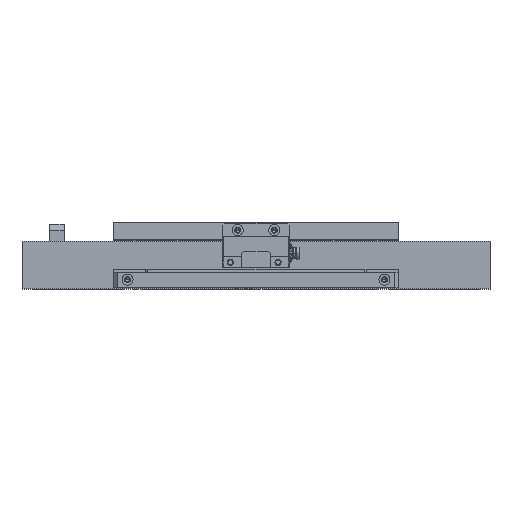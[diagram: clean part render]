
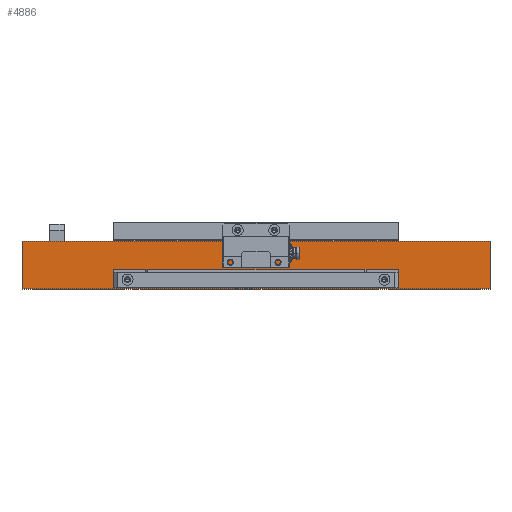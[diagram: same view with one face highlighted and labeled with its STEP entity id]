
A CAD part, top view. The second image highlights one B-rep face of the part: STEP entity #4886.
In plain terms, the highlighted planar face has unit normal (0, 0, 1).
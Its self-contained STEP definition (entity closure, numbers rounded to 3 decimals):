
#209 = DIRECTION ( 'NONE',  ( 0., 0., 1. ) ) ;
#1037 = EDGE_CURVE ( 'NONE', #8412, #20506, #8835, .T. ) ;
#1198 = CARTESIAN_POINT ( 'NONE',  ( -127.5, 26., 42.5 ) ) ;
#1228 = DIRECTION ( 'NONE',  ( 0., 0., 1. ) ) ;
#1430 = FACE_BOUND ( 'NONE', #4719, .T. ) ;
#1613 = AXIS2_PLACEMENT_3D ( 'NONE', #15515, #23757, #23883 ) ;
#1782 = VERTEX_POINT ( 'NONE', #23259 ) ;
#2299 = LINE ( 'NONE', #2420, #9876 ) ;
#2420 = CARTESIAN_POINT ( 'NONE',  ( -127.5, 26., 42.5 ) ) ;
#2478 = EDGE_CURVE ( 'NONE', #15671, #13914, #24063, .T. ) ;
#2589 = DIRECTION ( 'NONE',  ( 0., -1., 0. ) ) ;
#2671 = CARTESIAN_POINT ( 'NONE',  ( -127.5, 26., 42.5 ) ) ;
#3935 = VECTOR ( 'NONE', #2589, 1000. ) ;
#3992 = DIRECTION ( 'NONE',  ( 1., 0., 0. ) ) ;
#3994 = CARTESIAN_POINT ( 'NONE',  ( 68.75, 5., 42.5 ) ) ;
#4656 = ORIENTED_EDGE ( 'NONE', *, *, #2478, .F. ) ;
#4662 = LINE ( 'NONE', #2671, #18956 ) ;
#4719 = EDGE_LOOP ( 'NONE', ( #12147, #6859 ) ) ;
#4886 = ADVANCED_FACE ( 'NONE', ( #7586, #1430, #15384 ), #11606, .F. ) ;
#4937 = DIRECTION ( 'NONE',  ( 1., 0., 0. ) ) ;
#6073 = DIRECTION ( 'NONE',  ( 1., 0., 0. ) ) ;
#6180 = VERTEX_POINT ( 'NONE', #1198 ) ;
#6859 = ORIENTED_EDGE ( 'NONE', *, *, #22006, .F. ) ;
#7071 = DIRECTION ( 'NONE',  ( 0., 0., -1. ) ) ;
#7286 = EDGE_LOOP ( 'NONE', ( #17038, #4656 ) ) ;
#7586 = FACE_BOUND ( 'NONE', #7286, .T. ) ;
#7941 = AXIS2_PLACEMENT_3D ( 'NONE', #17313, #7071, #19712 ) ;
#8123 = DIRECTION ( 'NONE',  ( 0., 0., 1. ) ) ;
#8242 = CARTESIAN_POINT ( 'NONE',  ( 127.5, 26., 42.5 ) ) ;
#8258 = EDGE_LOOP ( 'NONE', ( #18433, #15120, #23559, #15056 ) ) ;
#8412 = VERTEX_POINT ( 'NONE', #14946 ) ;
#8835 = CIRCLE ( 'NONE', #23897, 1.25 ) ;
#9876 = VECTOR ( 'NONE', #10732, 1000. ) ;
#10732 = DIRECTION ( 'NONE',  ( 0., -1., 0. ) ) ;
#10761 = VECTOR ( 'NONE', #6073, 1000. ) ;
#11156 = CARTESIAN_POINT ( 'NONE',  ( 70., 5., 42.5 ) ) ;
#11227 = CIRCLE ( 'NONE', #26339, 1.25 ) ;
#11606 = PLANE ( 'NONE',  #7941 ) ;
#12147 = ORIENTED_EDGE ( 'NONE', *, *, #1037, .F. ) ;
#12149 = EDGE_CURVE ( 'NONE', #6180, #1782, #2299, .T. ) ;
#12848 = EDGE_CURVE ( 'NONE', #1782, #13761, #14681, .T. ) ;
#13761 = VERTEX_POINT ( 'NONE', #21443 ) ;
#13914 = VERTEX_POINT ( 'NONE', #16039 ) ;
#14681 = LINE ( 'NONE', #24523, #10761 ) ;
#14946 = CARTESIAN_POINT ( 'NONE',  ( 71.25, 5., 42.5 ) ) ;
#15056 = ORIENTED_EDGE ( 'NONE', *, *, #12149, .T. ) ;
#15120 = ORIENTED_EDGE ( 'NONE', *, *, #25968, .F. ) ;
#15384 = FACE_OUTER_BOUND ( 'NONE', #8258, .T. ) ;
#15515 = CARTESIAN_POINT ( 'NONE',  ( -70., 5., 42.5 ) ) ;
#15671 = VERTEX_POINT ( 'NONE', #25435 ) ;
#16039 = CARTESIAN_POINT ( 'NONE',  ( -68.75, 5., 42.5 ) ) ;
#17038 = ORIENTED_EDGE ( 'NONE', *, *, #24379, .F. ) ;
#17313 = CARTESIAN_POINT ( 'NONE',  ( -127.5, 26., 42.5 ) ) ;
#18351 = CARTESIAN_POINT ( 'NONE',  ( 70., 5., 42.5 ) ) ;
#18433 = ORIENTED_EDGE ( 'NONE', *, *, #12848, .T. ) ;
#18956 = VECTOR ( 'NONE', #4937, 1000. ) ;
#19419 = DIRECTION ( 'NONE',  ( 1., 0., 0. ) ) ;
#19712 = DIRECTION ( 'NONE',  ( -1., 0., 0. ) ) ;
#20499 = LINE ( 'NONE', #8242, #3935 ) ;
#20506 = VERTEX_POINT ( 'NONE', #3994 ) ;
#21177 = VERTEX_POINT ( 'NONE', #25845 ) ;
#21443 = CARTESIAN_POINT ( 'NONE',  ( 127.5, 0., 42.5 ) ) ;
#22006 = EDGE_CURVE ( 'NONE', #20506, #8412, #25788, .T. ) ;
#23259 = CARTESIAN_POINT ( 'NONE',  ( -127.5, 0., 42.5 ) ) ;
#23559 = ORIENTED_EDGE ( 'NONE', *, *, #25710, .F. ) ;
#23757 = DIRECTION ( 'NONE',  ( 0., 0., 1. ) ) ;
#23883 = DIRECTION ( 'NONE',  ( 1., 0., 0. ) ) ;
#23897 = AXIS2_PLACEMENT_3D ( 'NONE', #11156, #1228, #19419 ) ;
#24063 = CIRCLE ( 'NONE', #1613, 1.25 ) ;
#24291 = DIRECTION ( 'NONE',  ( 1., 0., 0. ) ) ;
#24379 = EDGE_CURVE ( 'NONE', #13914, #15671, #11227, .T. ) ;
#24523 = CARTESIAN_POINT ( 'NONE',  ( -127.5, 0., 42.5 ) ) ;
#24713 = CARTESIAN_POINT ( 'NONE',  ( -70., 5., 42.5 ) ) ;
#25435 = CARTESIAN_POINT ( 'NONE',  ( -71.25, 5., 42.5 ) ) ;
#25710 = EDGE_CURVE ( 'NONE', #6180, #21177, #4662, .T. ) ;
#25788 = CIRCLE ( 'NONE', #26238, 1.25 ) ;
#25845 = CARTESIAN_POINT ( 'NONE',  ( 127.5, 26., 42.5 ) ) ;
#25968 = EDGE_CURVE ( 'NONE', #21177, #13761, #20499, .T. ) ;
#26238 = AXIS2_PLACEMENT_3D ( 'NONE', #18351, #209, #24291 ) ;
#26339 = AXIS2_PLACEMENT_3D ( 'NONE', #24713, #8123, #3992 ) ;
